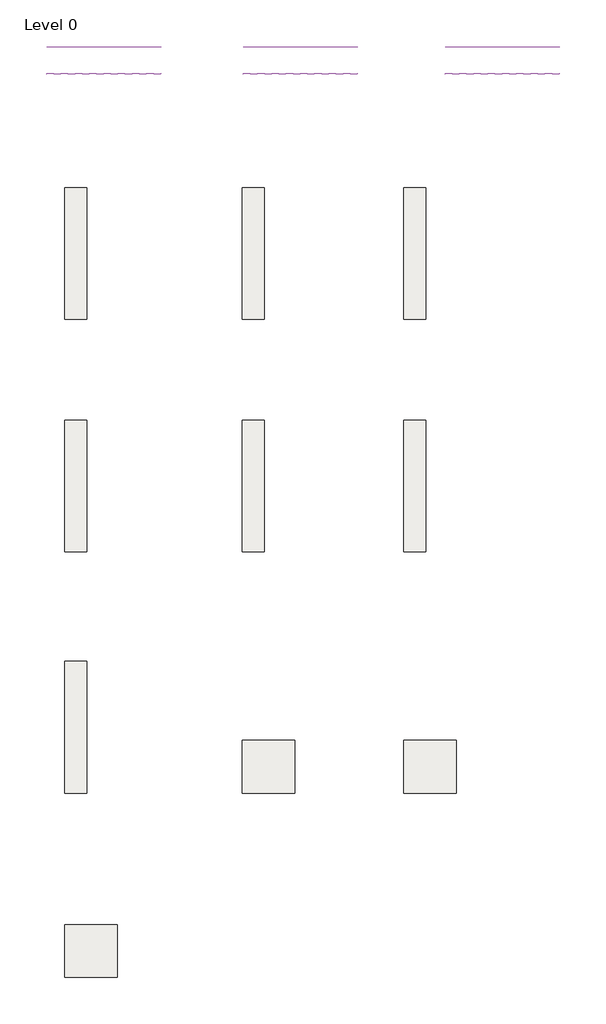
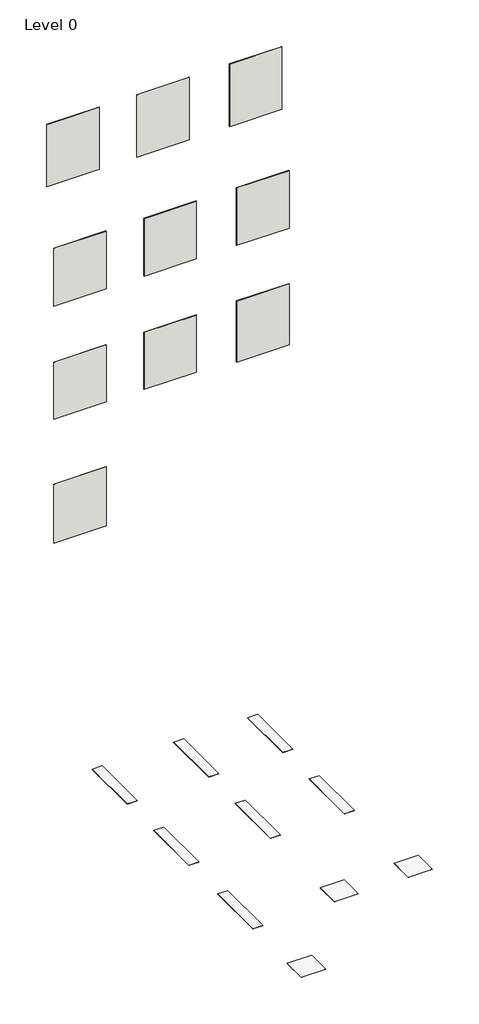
# One storey: 10 slabs, 10 walls.
"""IFC4 building model written with IfcOpenShell, lengths in millimetres."""

from ifc_helpers import new_model, si_unit, frame, origin, place, context, project, spatial, polyline, outline, extrude, element, save

model = new_model("IFC4")

# Units and contexts
model_context = context("Model", 3, world=origin())
ifc_project = project(units=[si_unit("LENGTHUNIT", "METRE", prefix="MILLI")], contexts=[model_context])

# Site, building, storey
site = spatial("IfcSite", under=ifc_project)
building = spatial("IfcBuilding", under=site)
storey = spatial("IfcBuildingStorey", under=building, Name="Level 0", Elevation=0.0)

# Slabs
placement = place(None, origin())
element("IfcSlab", 1, ObjectType="Floor_Tiles_Refin-Tamashi-Caviar-Matt_25x150_RA94", at=placement, inside=storey, context=model_context, shape_type="SweptSolid", body=[
    extrude(outline(polyline([(6374.3752062, 6538.4192064), (6374.3752062, 5038.4192064), (6124.3752062, 5038.4192064), (6124.3752062, 6538.4192064), (6374.3752062, 6538.4192064)])), frame((0.0, 0.0, -10.0), z_axis=(0.0, 0.0, 1.0), x_axis=(1.0, 0.0, 0.0)), (0.0, 0.0, 1.0), 10.0),
])
element("IfcSlab", 2, ObjectType="Floor_Tiles_Refin-Tamashi-Cream-Matt_25x150_RA95", at=placement, inside=storey, context=model_context, shape_type="SweptSolid", body=[
    extrude(outline(polyline([(8397.3924055, 6538.4192064), (8397.3924055, 5038.4192064), (8147.3924055, 5038.4192064), (8147.3924055, 6538.4192064), (8397.3924055, 6538.4192064)])), frame((0.0, 0.0, -10.0), z_axis=(0.0, 0.0, 1.0), x_axis=(1.0, 0.0, 0.0)), (0.0, 0.0, 1.0), 10.0),
])
element("IfcSlab", 3, ObjectType="Floor_Tiles_Refin-Tamashi-Pepper-Matt_25x150_RA96", at=placement, inside=storey, context=model_context, shape_type="SweptSolid", body=[
    extrude(outline(polyline([(10237.3924055, 6538.4192064), (10237.3924055, 5038.4192064), (9987.3924055, 5038.4192064), (9987.3924055, 6538.4192064), (10237.3924055, 6538.4192064)])), frame((0.0, 0.0, -10.0), z_axis=(0.0, 0.0, 1.0), x_axis=(1.0, 0.0, 0.0)), (0.0, 0.0, 1.0), 10.0),
])
element("IfcSlab", 4, ObjectType="Floor_Tiles_Refin-Tamashi-Sugar-Matt_25x150_RA97", at=placement, inside=storey, context=model_context, shape_type="SweptSolid", body=[
    extrude(outline(polyline([(6374.3752062, 3889.4623743), (6374.3752062, 2389.4623743), (6124.3752062, 2389.4623743), (6124.3752062, 3889.4623743), (6374.3752062, 3889.4623743)])), frame((0.0, 0.0, -10.0), z_axis=(0.0, 0.0, 1.0), x_axis=(1.0, 0.0, 0.0)), (0.0, 0.0, 1.0), 10.0),
])
element("IfcSlab", 5, ObjectType="Floor_Tiles_Refin-Tamashi-Tea-Matt_25x150_RA98", at=placement, inside=storey, context=model_context, shape_type="SweptSolid", body=[
    extrude(outline(polyline([(8397.3924055, 3889.4623743), (8397.3924055, 2389.4623743), (8147.3924055, 2389.4623743), (8147.3924055, 3889.4623743), (8397.3924055, 3889.4623743)])), frame((0.0, 0.0, -10.0), z_axis=(0.0, 0.0, 1.0), x_axis=(1.0, 0.0, 0.0)), (0.0, 0.0, 1.0), 10.0),
])
element("IfcSlab", 6, ObjectType="Floor_Tiles_Refin-Tamashi-Vanilla-Matt_25x150_RA99", at=placement, inside=storey, context=model_context, shape_type="SweptSolid", body=[
    extrude(outline(polyline([(10237.3924055, 3889.4623743), (10237.3924055, 2389.4623743), (9987.3924055, 2389.4623743), (9987.3924055, 3889.4623743), (10237.3924055, 3889.4623743)])), frame((0.0, 0.0, -10.0), z_axis=(0.0, 0.0, 1.0), x_axis=(1.0, 0.0, 0.0)), (0.0, 0.0, 1.0), 10.0),
])
element("IfcSlab", 7, ObjectType="Floor_Tiles_Refin-Tamashi-Walnut-Matt_25x150_RB00", at=placement, inside=storey, context=model_context, shape_type="SweptSolid", body=[
    extrude(outline(polyline([(6374.3752062, 1139.4623743), (6374.3752062, -360.5376257), (6124.3752062, -360.5376257), (6124.3752062, 1139.4623743), (6374.3752062, 1139.4623743)])), frame((0.0, 0.0, -10.0), z_axis=(0.0, 0.0, 1.0), x_axis=(1.0, 0.0, 0.0)), (0.0, 0.0, 1.0), 10.0),
])
element("IfcSlab", 8, ObjectType="Floor_Tiles_Refin-Tamashi-Pepper-Leaf-Matt_25x150_RB13", at=placement, inside=storey, context=model_context, shape_type="SweptSolid", body=[
    extrude(outline(polyline([(8747.3924055, 239.4623743), (8747.3924055, -360.5376257), (8147.3924055, -360.5376257), (8147.3924055, 239.4623743), (8747.3924055, 239.4623743)])), frame((0.0, 0.0, -10.0), z_axis=(0.0, 0.0, 1.0), x_axis=(1.0, 0.0, 0.0)), (0.0, 0.0, 1.0), 10.0),
])
element("IfcSlab", 9, ObjectType="Floor_Tiles_Refin-Tamashi-Tea-Leaf-Matt_25x150_RB14", at=placement, inside=storey, context=model_context, shape_type="SweptSolid", body=[
    extrude(outline(polyline([(10587.3924055, 239.4623743), (10587.3924055, -360.5376257), (9987.3924055, -360.5376257), (9987.3924055, 239.4623743), (10587.3924055, 239.4623743)])), frame((0.0, 0.0, -10.0), z_axis=(0.0, 0.0, 1.0), x_axis=(1.0, 0.0, 0.0)), (0.0, 0.0, 1.0), 10.0),
])
element("IfcSlab", 10, ObjectType="Floor_Tiles_Refin-Tamashi-Walnut-Leaf-Matt_25x150_RB15", at=placement, inside=storey, context=model_context, shape_type="SweptSolid", body=[
    extrude(outline(polyline([(6724.3752062, -1860.5376257), (6724.3752062, -2460.5376257), (6124.3752062, -2460.5376257), (6124.3752062, -1860.5376257), (6724.3752062, -1860.5376257)])), frame((0.0, 0.0, -10.0), z_axis=(0.0, 0.0, 1.0), x_axis=(1.0, 0.0, 0.0)), (0.0, 0.0, 1.0), 10.0),
])

# Walls
element("IfcWall", 11, ObjectType="Wall_Tiles_Refin-Tamashi-Cream-Matt_25x150_RA95", at=placement, inside=storey, context=model_context, shape_type="SweptSolid", body=[
    extrude(outline(polyline([(9457.3752062, 8132.3838631), (8157.3752062, 8132.3838631), (8157.3752062, 8142.3838631), (9457.3752062, 8142.3838631), (9457.3752062, 8132.3838631)])), frame((0.0, 0.0, 14387.6770443), z_axis=(0.0, 0.0, 1.0), x_axis=(1.0, 0.0, 0.0)), (0.0, 0.0, 1.0), 1641.7417352),
])
element("IfcWall", 12, ObjectType="Wall_Tiles_Refin-Tamashi-Pepper-Matt_25x150_RA96", at=placement, inside=storey, context=model_context, shape_type="SweptSolid", body=[
    extrude(outline(polyline([(11757.3752062, 8132.3838631), (10457.3752062, 8132.3838631), (10457.3752062, 8142.3838631), (11757.3752062, 8142.3838631), (11757.3752062, 8132.3838631)])), frame((0.0, 0.0, 14387.6770443), z_axis=(0.0, 0.0, 1.0), x_axis=(1.0, 0.0, 0.0)), (0.0, 0.0, 1.0), 1641.7417352),
])
element("IfcWall", 13, ObjectType="Wall_Tiles_Refin-Tamashi-Caviar-Matt_25x150_RA94", at=placement, inside=storey, context=model_context, shape_type="SweptSolid", body=[
    extrude(outline(polyline([(7217.3752062, 8132.3838631), (5917.3752062, 8132.3838631), (5917.3752062, 8142.3838631), (7217.3752062, 8142.3838631), (7217.3752062, 8132.3838631)])), frame((0.0, 0.0, 14403.7267346), z_axis=(0.0, 0.0, 1.0), x_axis=(1.0, 0.0, 0.0)), (0.0, 0.0, 1.0), 1625.692045),
])
element("IfcWall", 14, ObjectType="Wall_Tiles_Refin-Tamashi-Sugar-Matt_25x150_RA97", at=placement, inside=storey, context=model_context, shape_type="SweptSolid", body=[
    extrude(outline(polyline([(7217.3752062, 7827.3838631), (5917.3752062, 7827.3838631), (5917.3752062, 7837.3838631), (7217.3752062, 7837.3838631), (7217.3752062, 7827.3838631)])), frame((0.0, 0.0, 11452.5436262), z_axis=(0.0, 0.0, 1.0), x_axis=(1.0, 0.0, 0.0)), (0.0, 0.0, 1.0), 1513.1985566),
])
element("IfcWall", 15, ObjectType="Wall_Tiles_Refin-Tamashi-Tea-Matt_25x150_RA98", at=placement, inside=storey, context=model_context, shape_type="SweptSolid", body=[
    extrude(outline(polyline([(9457.3752062, 7827.3838631), (8157.3752062, 7827.3838631), (8157.3752062, 7837.3838631), (9457.3752062, 7837.3838631), (9457.3752062, 7827.3838631)])), frame((0.0, 0.0, 11452.5436262), z_axis=(0.0, 0.0, 1.0), x_axis=(1.0, 0.0, 0.0)), (0.0, 0.0, 1.0), 1513.1985566),
])
element("IfcWall", 16, ObjectType="Wall_Tiles_Refin-Tamashi-Vanilla-Matt_25x150_RA99", at=placement, inside=storey, context=model_context, shape_type="SweptSolid", body=[
    extrude(outline(polyline([(11757.3752062, 7827.3838631), (10457.3752062, 7827.3838631), (10457.3752062, 7837.3838631), (11757.3752062, 7837.3838631), (11757.3752062, 7827.3838631)])), frame((0.0, 0.0, 11452.5436262), z_axis=(0.0, 0.0, 1.0), x_axis=(1.0, 0.0, 0.0)), (0.0, 0.0, 1.0), 1513.1985566),
])
element("IfcWall", 17, ObjectType="Wall_Tiles_Refin-Tamashi-Pepper-Leaf-Matt_60x60_RB13", at=placement, inside=storey, context=model_context, shape_type="SweptSolid", body=[
    extrude(outline(polyline([(9457.3752062, 7827.3838631), (8157.3752062, 7827.3838631), (8157.3752062, 7837.3838631), (9457.3752062, 7837.3838631), (9457.3752062, 7827.3838631)])), frame((0.0, 0.0, 8478.9216329), z_axis=(0.0, 0.0, 1.0), x_axis=(1.0, 0.0, 0.0)), (0.0, 0.0, 1.0), 1496.3372095),
])
element("IfcWall", 18, ObjectType="Wall_Tiles_Refin-Tamashi-Walnut-Matt_25x150_RB00", at=placement, inside=storey, context=model_context, shape_type="SweptSolid", body=[
    extrude(outline(polyline([(7217.3752062, 7827.3838631), (5917.3752062, 7827.3838631), (5917.3752062, 7837.3838631), (7217.3752062, 7837.3838631), (7217.3752062, 7827.3838631)])), frame((0.0, 0.0, 8478.9216329), z_axis=(0.0, 0.0, 1.0), x_axis=(1.0, 0.0, 0.0)), (0.0, 0.0, 1.0), 1496.3372095),
])
element("IfcWall", 19, ObjectType="Wall_Tiles_Refin-Tamashi-Tea-Leaf-Matt_60x60_RB14", at=placement, inside=storey, context=model_context, shape_type="SweptSolid", body=[
    extrude(outline(polyline([(11757.3752062, 7827.3838631), (10457.3752062, 7827.3838631), (10457.3752062, 7837.3838631), (11757.3752062, 7837.3838631), (11757.3752062, 7827.3838631)])), frame((0.0, 0.0, 8391.9526745), z_axis=(0.0, 0.0, 1.0), x_axis=(1.0, 0.0, 0.0)), (0.0, 0.0, 1.0), 1597.8232234),
])
element("IfcWall", 20, ObjectType="Wall_Tiles_Refin-Tamashi-Walnut-Leaf-Matt_60x60_RB15", at=placement, inside=storey, context=model_context, shape_type="SweptSolid", body=[
    extrude(outline(polyline([(7217.3752062, 7827.3838631), (5917.3752062, 7827.3838631), (5917.3752062, 7837.3838631), (7217.3752062, 7837.3838631), (7217.3752062, 7827.3838631)])), frame((0.0, 0.0, 5224.070797), z_axis=(0.0, 0.0, 1.0), x_axis=(1.0, 0.0, 0.0)), (0.0, 0.0, 1.0), 1547.8151863),
])

save(model, "model.ifc")
